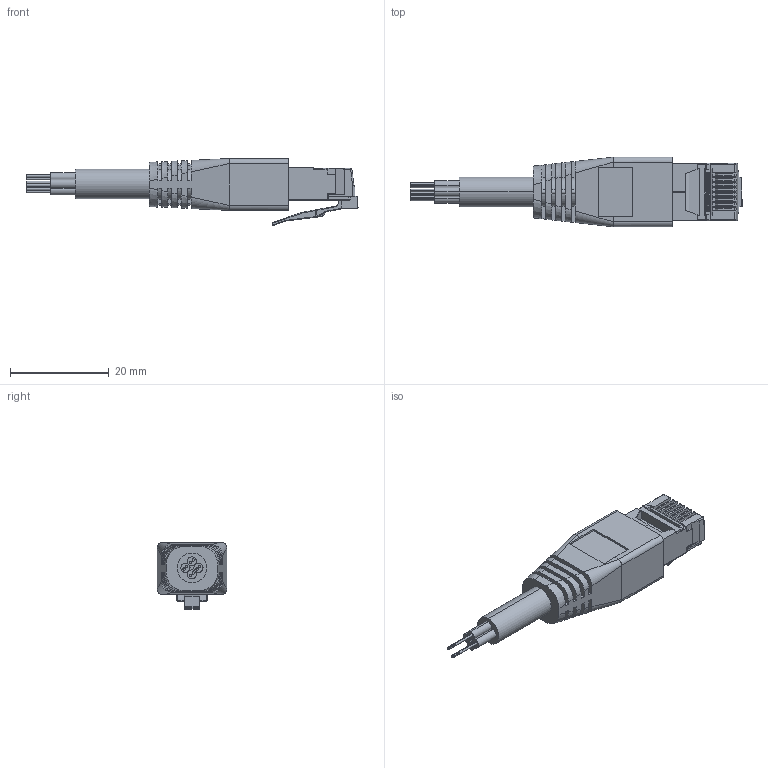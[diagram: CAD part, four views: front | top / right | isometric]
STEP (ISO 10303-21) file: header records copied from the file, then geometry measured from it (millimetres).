
FILE_DESCRIPTION (( 'STEP AP214' ), '1' );
FILE_NAME ('MV-1.STEP', '2023-06-22T15:10:36', ( '' ), ( '' ), 'SwSTEP 2.0', 'SolidWorks 2021', '' );
FILE_SCHEMA (( 'AUTOMOTIVE_DESIGN' ));
Length unit declared in the file: millimetre
Products named in the file (7): MI_Cable_Ethernet; SS-39200-011 Shield; SS-39200-011; MV-1; MV-1 OverMold; SS-39200-011 Body; SS-39200-011 Contacts
Assembly tree (6 placements, depth 3):
  MV-1
    SS-39200-011
      SS-39200-011 Body
      SS-39200-011 Contacts
      SS-39200-011 Shield
    MV-1 OverMold
    MI_Cable_Ethernet
Bounding box: 67.3 x 14.1 x 13.54 mm (x, y, z)
Volume: 3883 mm3; surface area: 5489.8 mm2
Topology: 24 solids, 24 shells, 817 faces, 2293 edges, 1507 vertices
Faces by surface type: plane 586, cylinder 200, bspline 29, torus 2
Entity records: 28145 total; most frequent: CARTESIAN_POINT 7174, ORIENTED_EDGE 4586, DIRECTION 3780, EDGE_CURVE 2293, VECTOR 1756, LINE 1756, VERTEX_POINT 1507, AXIS2_PLACEMENT_3D 1012
